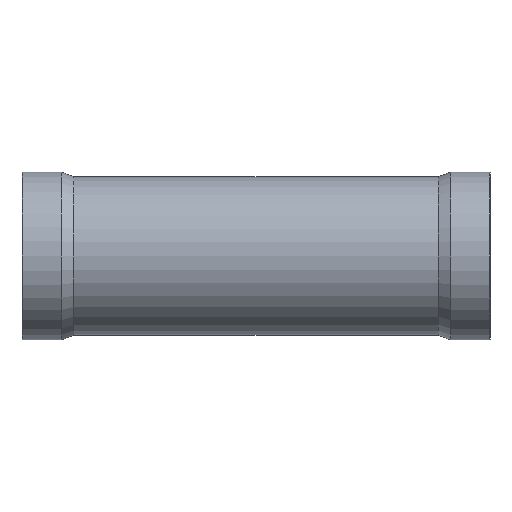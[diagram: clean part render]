
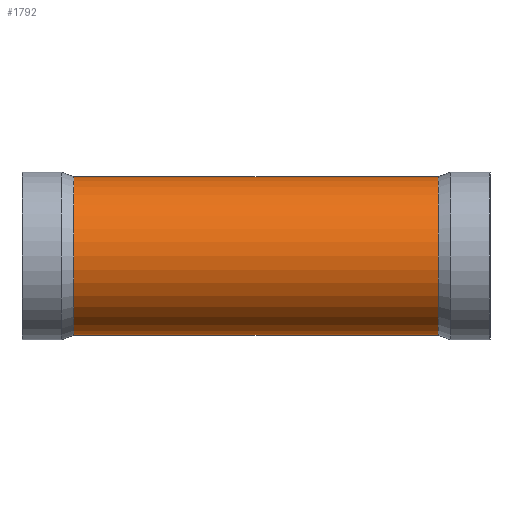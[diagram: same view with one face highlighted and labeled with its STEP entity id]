
A CAD part, front view. The second image highlights one B-rep face of the part: STEP entity #1792.
In plain terms, the highlighted cylindrical face has radius 77.47 mm (diameter 154.94 mm), a partial arc.
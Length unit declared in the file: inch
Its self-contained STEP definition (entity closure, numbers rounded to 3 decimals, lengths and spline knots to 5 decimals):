
#39 = VERTEX_POINT ( 'NONE', #909 ) ;
#166 = EDGE_CURVE ( 'NONE', #989, #871, #1032, .T. ) ;
#179 = EDGE_CURVE ( 'NONE', #547, #989, #1181, .T. ) ;
#230 = AXIS2_PLACEMENT_3D ( 'NONE', #691, #1474, #908 ) ;
#286 = EDGE_CURVE ( 'NONE', #39, #871, #433, .T. ) ;
#433 = LINE ( 'NONE', #622, #1653 ) ;
#488 = CIRCLE ( 'NONE', #1365, 3.05 ) ;
#547 = VERTEX_POINT ( 'NONE', #1816 ) ;
#567 = CARTESIAN_POINT ( 'NONE',  ( 7.01919, 0., 3.05 ) ) ;
#622 = CARTESIAN_POINT ( 'NONE',  ( 7.15, 0., -3.05 ) ) ;
#645 = ORIENTED_EDGE ( 'NONE', *, *, #286, .T. ) ;
#657 = EDGE_LOOP ( 'NONE', ( #1985, #1225, #645, #1204 ) ) ;
#691 = CARTESIAN_POINT ( 'NONE',  ( 7.15, 0., 0. ) ) ;
#871 = VERTEX_POINT ( 'NONE', #1436 ) ;
#908 = DIRECTION ( 'NONE',  ( 0., 0., -1. ) ) ;
#909 = CARTESIAN_POINT ( 'NONE',  ( -7.01919, 0., -3.05 ) ) ;
#936 = DIRECTION ( 'NONE',  ( 1., 0., 0. ) ) ;
#977 = EDGE_CURVE ( 'NONE', #547, #39, #488, .T. ) ;
#989 = VERTEX_POINT ( 'NONE', #567 ) ;
#1032 = CIRCLE ( 'NONE', #1349, 3.05 ) ;
#1181 = LINE ( 'NONE', #1822, #2092 ) ;
#1204 = ORIENTED_EDGE ( 'NONE', *, *, #166, .F. ) ;
#1207 = DIRECTION ( 'NONE',  ( 1., 0., 0. ) ) ;
#1225 = ORIENTED_EDGE ( 'NONE', *, *, #977, .T. ) ;
#1304 = CARTESIAN_POINT ( 'NONE',  ( -7.01919, 0., 0. ) ) ;
#1325 = DIRECTION ( 'NONE',  ( 1., 0., 0. ) ) ;
#1349 = AXIS2_PLACEMENT_3D ( 'NONE', #2322, #936, #1744 ) ;
#1365 = AXIS2_PLACEMENT_3D ( 'NONE', #1304, #1325, #2292 ) ;
#1436 = CARTESIAN_POINT ( 'NONE',  ( 7.01919, 0., -3.05 ) ) ;
#1474 = DIRECTION ( 'NONE',  ( 1., 0., 0. ) ) ;
#1653 = VECTOR ( 'NONE', #1983, 39.37008 ) ;
#1680 = FACE_OUTER_BOUND ( 'NONE', #657, .T. ) ;
#1744 = DIRECTION ( 'NONE',  ( 0., 0., -1. ) ) ;
#1792 = ADVANCED_FACE ( 'NONE', ( #1680 ), #2443, .T. ) ;
#1816 = CARTESIAN_POINT ( 'NONE',  ( -7.01919, 0., 3.05 ) ) ;
#1822 = CARTESIAN_POINT ( 'NONE',  ( 7.15, 0., 3.05 ) ) ;
#1983 = DIRECTION ( 'NONE',  ( 1., 0., 0. ) ) ;
#1985 = ORIENTED_EDGE ( 'NONE', *, *, #179, .F. ) ;
#2092 = VECTOR ( 'NONE', #1207, 39.37008 ) ;
#2292 = DIRECTION ( 'NONE',  ( 0., 0., -1. ) ) ;
#2322 = CARTESIAN_POINT ( 'NONE',  ( 7.01919, 0., 0. ) ) ;
#2443 = CYLINDRICAL_SURFACE ( 'NONE', #230, 3.05 ) ;
